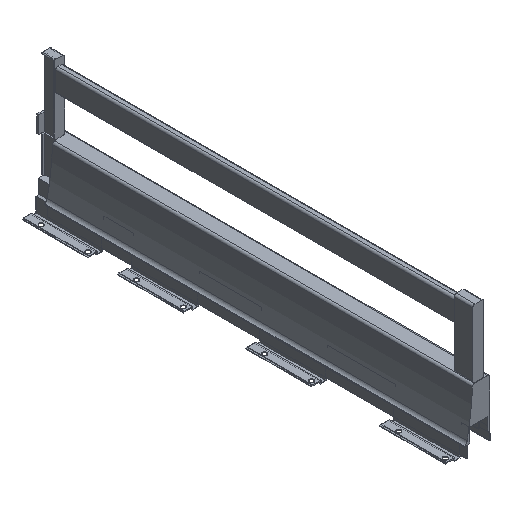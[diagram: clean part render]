
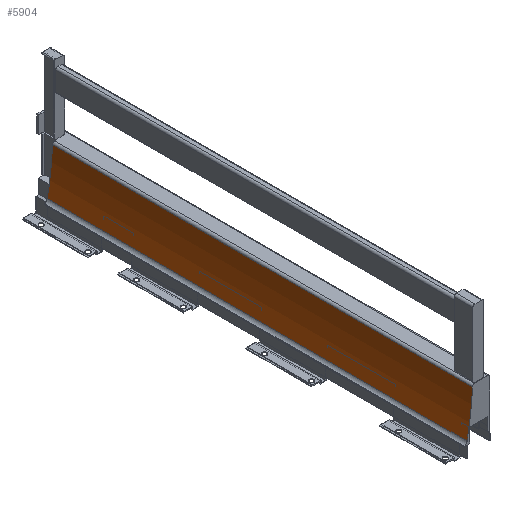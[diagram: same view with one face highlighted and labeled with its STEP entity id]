
A CAD part, isometric view. The second image highlights one B-rep face of the part: STEP entity #5904.
In plain terms, the highlighted cylindrical face has radius 350 mm (diameter 700 mm), a partial arc.
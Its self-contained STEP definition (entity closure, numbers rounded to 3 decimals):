
#73 = LINE ( 'NONE', #4025, #78 ) ;
#78 = VECTOR ( 'NONE', #4028, 1000. ) ;
#138 = LINE ( 'NONE', #4096, #143 ) ;
#143 = VECTOR ( 'NONE', #4099, 1000. ) ;
#636 = EDGE_LOOP ( 'NONE', ( #6280, #6281, #6282, #6283 ) ) ;
#769 = CIRCLE ( 'NONE', #4829, 350. ) ;
#1119 = CIRCLE ( 'NONE', #5278, 350. ) ;
#1394 = FACE_OUTER_BOUND ( 'NONE', #636, .T. ) ;
#1396 = CYLINDRICAL_SURFACE ( 'NONE', #5415, 350. ) ;
#2323 = CARTESIAN_POINT ( 'NONE',  ( -369.665, 573.8, 58.86 ) ) ;
#2329 = DIRECTION ( 'NONE',  ( 0., -1., 0. ) ) ;
#2330 = DIRECTION ( 'NONE',  ( -1., 0., 0. ) ) ;
#2711 = DIRECTION ( 'NONE',  ( 1., 0., 0. ) ) ;
#2712 = DIRECTION ( 'NONE',  ( 0., -1., 0. ) ) ;
#2713 = CARTESIAN_POINT ( 'NONE',  ( -369.665, 590., 58.86 ) ) ;
#3316 = VERTEX_POINT ( 'NONE', #3675 ) ;
#3435 = VERTEX_POINT ( 'NONE', #3794 ) ;
#3436 = VERTEX_POINT ( 'NONE', #3795 ) ;
#3474 = VERTEX_POINT ( 'NONE', #3833 ) ;
#3675 = CARTESIAN_POINT ( 'NONE',  ( -27.279, 573.8, -13.745 ) ) ;
#3794 = CARTESIAN_POINT ( 'NONE',  ( -19.88, 0., 46.603 ) ) ;
#3795 = CARTESIAN_POINT ( 'NONE',  ( -27.279, 0., -13.745 ) ) ;
#3833 = CARTESIAN_POINT ( 'NONE',  ( -19.88, 573.8, 46.603 ) ) ;
#4025 = CARTESIAN_POINT ( 'NONE',  ( -27.279, 590., -13.745 ) ) ;
#4028 = DIRECTION ( 'NONE',  ( 0., -1., 0. ) ) ;
#4096 = CARTESIAN_POINT ( 'NONE',  ( -19.88, 590., 46.603 ) ) ;
#4099 = DIRECTION ( 'NONE',  ( 0., -1., 0. ) ) ;
#4431 = CARTESIAN_POINT ( 'NONE',  ( -369.665, 0., 58.86 ) ) ;
#4445 = DIRECTION ( 'NONE',  ( 0., -1., 0. ) ) ;
#4446 = DIRECTION ( 'NONE',  ( -1., 0., 0. ) ) ;
#4757 = EDGE_CURVE ( 'NONE', #3316, #3436, #73, .T. ) ;
#4809 = EDGE_CURVE ( 'NONE', #3474, #3435, #138, .T. ) ;
#4829 = AXIS2_PLACEMENT_3D ( 'NONE', #4431, #4445, #4446 ) ;
#5054 = EDGE_CURVE ( 'NONE', #3436, #3435, #769, .T. ) ;
#5278 = AXIS2_PLACEMENT_3D ( 'NONE', #2323, #2329, #2330 ) ;
#5342 = EDGE_CURVE ( 'NONE', #3316, #3474, #1119, .T. ) ;
#5415 = AXIS2_PLACEMENT_3D ( 'NONE', #2713, #2712, #2711 ) ;
#5904 = ADVANCED_FACE ( 'NONE', ( #1394 ), #1396, .F. ) ;
#6280 = ORIENTED_EDGE ( 'NONE', *, *, #5342, .F. ) ;
#6281 = ORIENTED_EDGE ( 'NONE', *, *, #4757, .T. ) ;
#6282 = ORIENTED_EDGE ( 'NONE', *, *, #5054, .T. ) ;
#6283 = ORIENTED_EDGE ( 'NONE', *, *, #4809, .F. ) ;
